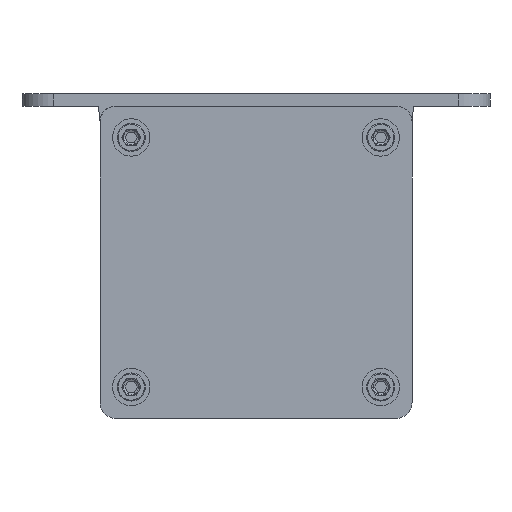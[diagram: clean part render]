
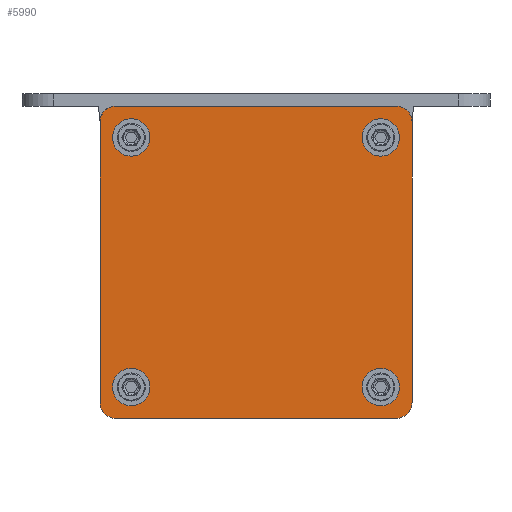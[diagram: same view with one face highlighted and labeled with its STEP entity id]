
A CAD part, front view. The second image highlights one B-rep face of the part: STEP entity #5990.
In plain terms, the highlighted planar face has unit normal (0, -1, 0).
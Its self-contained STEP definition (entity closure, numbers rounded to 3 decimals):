
#2125=CARTESIAN_POINT('',(-45.,-415.5,-45.));
#2126=DIRECTION('',(0.,-1.,0.));
#2127=DIRECTION('',(-1.,0.,0.));
#2128=AXIS2_PLACEMENT_3D('',#2125,#2126,#2127);
#2130=DIRECTION('',(0.,0.,-1.));
#2131=VECTOR('',#2130,90.);
#2132=CARTESIAN_POINT('',(-50.,-415.5,45.));
#2133=LINE('',#2132,#2131);
#2134=CARTESIAN_POINT('',(-45.,-415.5,45.));
#2135=DIRECTION('',(0.,-1.,0.));
#2136=DIRECTION('',(0.,0.,1.));
#2137=AXIS2_PLACEMENT_3D('',#2134,#2135,#2136);
#2139=DIRECTION('',(-1.,0.,0.));
#2140=VECTOR('',#2139,90.);
#2141=CARTESIAN_POINT('',(45.,-415.5,50.));
#2142=LINE('',#2141,#2140);
#2143=CARTESIAN_POINT('',(45.,-415.5,45.));
#2144=DIRECTION('',(0.,-1.,0.));
#2145=DIRECTION('',(1.,0.,0.));
#2146=AXIS2_PLACEMENT_3D('',#2143,#2144,#2145);
#2148=DIRECTION('',(0.,0.,1.));
#2149=VECTOR('',#2148,90.);
#2150=CARTESIAN_POINT('',(50.,-415.5,-45.));
#2151=LINE('',#2150,#2149);
#2152=CARTESIAN_POINT('',(45.,-415.5,-45.));
#2153=DIRECTION('',(0.,-1.,0.));
#2154=DIRECTION('',(0.,0.,-1.));
#2155=AXIS2_PLACEMENT_3D('',#2152,#2153,#2154);
#2157=DIRECTION('',(1.,0.,0.));
#2158=VECTOR('',#2157,90.);
#2159=CARTESIAN_POINT('',(-45.,-415.5,-50.));
#2160=LINE('',#2159,#2158);
#2161=CARTESIAN_POINT('',(-40.,-415.5,-40.));
#2162=DIRECTION('',(0.,-1.,0.));
#2163=DIRECTION('',(0.,0.,1.));
#2164=AXIS2_PLACEMENT_3D('',#2161,#2162,#2163);
#2166=CARTESIAN_POINT('',(-40.,-415.5,-40.));
#2167=DIRECTION('',(0.,-1.,0.));
#2168=DIRECTION('',(0.,0.,-1.));
#2169=AXIS2_PLACEMENT_3D('',#2166,#2167,#2168);
#2171=CARTESIAN_POINT('',(-40.,-415.5,40.));
#2172=DIRECTION('',(0.,-1.,0.));
#2173=DIRECTION('',(0.,0.,1.));
#2174=AXIS2_PLACEMENT_3D('',#2171,#2172,#2173);
#2176=CARTESIAN_POINT('',(-40.,-415.5,40.));
#2177=DIRECTION('',(0.,-1.,0.));
#2178=DIRECTION('',(0.,0.,-1.));
#2179=AXIS2_PLACEMENT_3D('',#2176,#2177,#2178);
#2181=CARTESIAN_POINT('',(40.,-415.5,-40.));
#2182=DIRECTION('',(0.,-1.,0.));
#2183=DIRECTION('',(0.,0.,1.));
#2184=AXIS2_PLACEMENT_3D('',#2181,#2182,#2183);
#2186=CARTESIAN_POINT('',(40.,-415.5,-40.));
#2187=DIRECTION('',(0.,-1.,0.));
#2188=DIRECTION('',(0.,0.,-1.));
#2189=AXIS2_PLACEMENT_3D('',#2186,#2187,#2188);
#2191=CARTESIAN_POINT('',(40.,-415.5,40.));
#2192=DIRECTION('',(0.,-1.,0.));
#2193=DIRECTION('',(0.,0.,1.));
#2194=AXIS2_PLACEMENT_3D('',#2191,#2192,#2193);
#2196=CARTESIAN_POINT('',(40.,-415.5,40.));
#2197=DIRECTION('',(0.,-1.,0.));
#2198=DIRECTION('',(0.,0.,-1.));
#2199=AXIS2_PLACEMENT_3D('',#2196,#2197,#2198);
#2509=CARTESIAN_POINT('',(-50.,-415.5,-45.));
#2510=CARTESIAN_POINT('',(-45.,-415.5,-50.));
#2511=VERTEX_POINT('',#2509);
#2512=VERTEX_POINT('',#2510);
#2513=CARTESIAN_POINT('',(45.,-415.5,-50.));
#2514=VERTEX_POINT('',#2513);
#2515=CARTESIAN_POINT('',(50.,-415.5,-45.));
#2516=VERTEX_POINT('',#2515);
#2517=CARTESIAN_POINT('',(50.,-415.5,45.));
#2518=VERTEX_POINT('',#2517);
#2519=CARTESIAN_POINT('',(45.,-415.5,50.));
#2520=VERTEX_POINT('',#2519);
#2521=CARTESIAN_POINT('',(-45.,-415.5,50.));
#2522=VERTEX_POINT('',#2521);
#2523=CARTESIAN_POINT('',(-50.,-415.5,45.));
#2524=VERTEX_POINT('',#2523);
#2537=CARTESIAN_POINT('',(-40.,-415.5,-36.75));
#2538=CARTESIAN_POINT('',(-40.,-415.5,-43.25));
#2539=VERTEX_POINT('',#2537);
#2540=VERTEX_POINT('',#2538);
#2541=CARTESIAN_POINT('',(-40.,-415.5,43.25));
#2542=CARTESIAN_POINT('',(-40.,-415.5,36.75));
#2543=VERTEX_POINT('',#2541);
#2544=VERTEX_POINT('',#2542);
#2545=CARTESIAN_POINT('',(40.,-415.5,-36.75));
#2546=CARTESIAN_POINT('',(40.,-415.5,-43.25));
#2547=VERTEX_POINT('',#2545);
#2548=VERTEX_POINT('',#2546);
#2549=CARTESIAN_POINT('',(40.,-415.5,43.25));
#2550=CARTESIAN_POINT('',(40.,-415.5,36.75));
#2551=VERTEX_POINT('',#2549);
#2552=VERTEX_POINT('',#2550);
#5945=CARTESIAN_POINT('',(0.,-415.5,0.));
#5946=DIRECTION('',(0.,-1.,0.));
#5947=DIRECTION('',(0.,0.,1.));
#5948=AXIS2_PLACEMENT_3D('',#5945,#5946,#5947);
#5949=PLANE('',#5948);
#5951=ORIENTED_EDGE('',*,*,#5950,.F.);
#5953=ORIENTED_EDGE('',*,*,#5952,.F.);
#5955=ORIENTED_EDGE('',*,*,#5954,.F.);
#5957=ORIENTED_EDGE('',*,*,#5956,.F.);
#5959=ORIENTED_EDGE('',*,*,#5958,.F.);
#5961=ORIENTED_EDGE('',*,*,#5960,.F.);
#5963=ORIENTED_EDGE('',*,*,#5962,.F.);
#5965=ORIENTED_EDGE('',*,*,#5964,.F.);
#5966=EDGE_LOOP('',(#5951,#5953,#5955,#5957,#5959,#5961,#5963,#5965));
#5967=FACE_OUTER_BOUND('',#5966,.F.);
#5968=ORIENTED_EDGE('',*,*,#5925,.T.);
#5969=ORIENTED_EDGE('',*,*,#5939,.T.);
#5970=EDGE_LOOP('',(#5968,#5969));
#5971=FACE_BOUND('',#5970,.F.);
#5973=ORIENTED_EDGE('',*,*,#5972,.T.);
#5975=ORIENTED_EDGE('',*,*,#5974,.T.);
#5976=EDGE_LOOP('',(#5973,#5975));
#5977=FACE_BOUND('',#5976,.F.);
#5979=ORIENTED_EDGE('',*,*,#5978,.T.);
#5981=ORIENTED_EDGE('',*,*,#5980,.T.);
#5982=EDGE_LOOP('',(#5979,#5981));
#5983=FACE_BOUND('',#5982,.F.);
#5985=ORIENTED_EDGE('',*,*,#5984,.T.);
#5987=ORIENTED_EDGE('',*,*,#5986,.T.);
#5988=EDGE_LOOP('',(#5985,#5987));
#5989=FACE_BOUND('',#5988,.F.);
#5990=ADVANCED_FACE('',(#5967,#5971,#5977,#5983,#5989),#5949,.T.);
#2129=CIRCLE('',#2128,5.);
#2138=CIRCLE('',#2137,5.);
#2147=CIRCLE('',#2146,5.);
#2156=CIRCLE('',#2155,5.);
#2165=CIRCLE('',#2164,3.25);
#2170=CIRCLE('',#2169,3.25);
#2175=CIRCLE('',#2174,3.25);
#2180=CIRCLE('',#2179,3.25);
#2185=CIRCLE('',#2184,3.25);
#2190=CIRCLE('',#2189,3.25);
#2195=CIRCLE('',#2194,3.25);
#2200=CIRCLE('',#2199,3.25);
#5925=EDGE_CURVE('',#2539,#2540,#2165,.T.);
#5939=EDGE_CURVE('',#2540,#2539,#2170,.T.);
#5950=EDGE_CURVE('',#2511,#2512,#2129,.T.);
#5952=EDGE_CURVE('',#2524,#2511,#2133,.T.);
#5954=EDGE_CURVE('',#2522,#2524,#2138,.T.);
#5956=EDGE_CURVE('',#2520,#2522,#2142,.T.);
#5958=EDGE_CURVE('',#2518,#2520,#2147,.T.);
#5960=EDGE_CURVE('',#2516,#2518,#2151,.T.);
#5962=EDGE_CURVE('',#2514,#2516,#2156,.T.);
#5964=EDGE_CURVE('',#2512,#2514,#2160,.T.);
#5972=EDGE_CURVE('',#2543,#2544,#2175,.T.);
#5974=EDGE_CURVE('',#2544,#2543,#2180,.T.);
#5978=EDGE_CURVE('',#2547,#2548,#2185,.T.);
#5980=EDGE_CURVE('',#2548,#2547,#2190,.T.);
#5984=EDGE_CURVE('',#2551,#2552,#2195,.T.);
#5986=EDGE_CURVE('',#2552,#2551,#2200,.T.);
